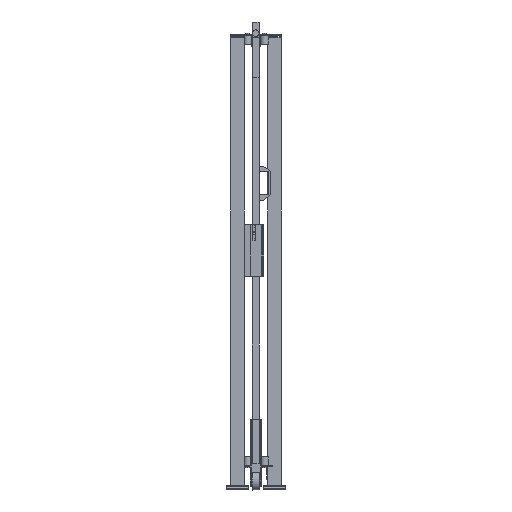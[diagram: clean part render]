
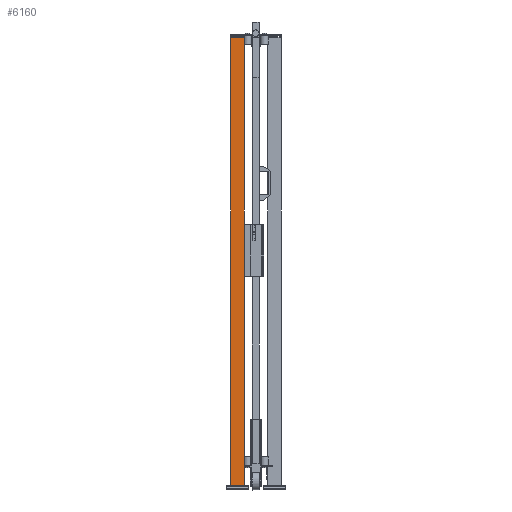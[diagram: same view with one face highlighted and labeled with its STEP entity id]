
A CAD part, left-side view. The second image highlights one B-rep face of the part: STEP entity #6160.
In plain terms, the highlighted planar face has unit normal (-1, 0, 0) as drawn and (0, 1, 0) by its records, which use the part's own axes.
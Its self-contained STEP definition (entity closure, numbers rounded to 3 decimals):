
#615=FACE_OUTER_BOUND('',#1088,.T.);
#1088=EDGE_LOOP('',(#3977,#3978,#3979,#3980));
#1634=VERTEX_POINT('',#13793);
#1635=VERTEX_POINT('',#13795);
#1637=VERTEX_POINT('',#13801);
#1640=VERTEX_POINT('',#13806);
#2532=EDGE_CURVE('',#1634,#1635,#7501,.T.);
#2538=EDGE_CURVE('',#1640,#1637,#7507,.T.);
#2541=EDGE_CURVE('',#1635,#1640,#7510,.T.);
#2542=EDGE_CURVE('',#1634,#1637,#7511,.T.);
#3977=ORIENTED_EDGE('',*,*,#2542,.T.);
#3978=ORIENTED_EDGE('',*,*,#2538,.F.);
#3979=ORIENTED_EDGE('',*,*,#2541,.F.);
#3980=ORIENTED_EDGE('',*,*,#2532,.F.);
#5731=PLANE('',#9581);
#6160=ADVANCED_FACE('',(#615),#5731,.F.);
#7501=LINE('',#13796,#8686);
#7507=LINE('',#13808,#8692);
#7510=LINE('',#13813,#8695);
#7511=LINE('',#13815,#8696);
#8686=VECTOR('',#10824,1.);
#8692=VECTOR('',#10832,1.);
#8695=VECTOR('',#10839,1.);
#8696=VECTOR('',#10842,1.);
#9581=AXIS2_PLACEMENT_3D('',#13814,#10840,#10841);
#10824=DIRECTION('',(-1.,0.,0.));
#10832=DIRECTION('',(1.,0.,0.));
#10839=DIRECTION('',(0.,0.,-1.));
#10840=DIRECTION('center_axis',(0.,-1.,0.));
#10841=DIRECTION('ref_axis',(0.,0.,-1.));
#10842=DIRECTION('',(0.,0.,-1.));
#13793=CARTESIAN_POINT('',(30.,30.,2020.));
#13795=CARTESIAN_POINT('',(-30.,30.,2020.));
#13796=CARTESIAN_POINT('',(0.,30.,2020.));
#13801=CARTESIAN_POINT('',(30.,30.,20.));
#13806=CARTESIAN_POINT('',(-30.,30.,20.));
#13808=CARTESIAN_POINT('',(0.,30.,20.));
#13813=CARTESIAN_POINT('',(-30.,30.,1020.));
#13814=CARTESIAN_POINT('Origin',(0.,30.,
1020.));
#13815=CARTESIAN_POINT('',(30.,30.,1020.));
